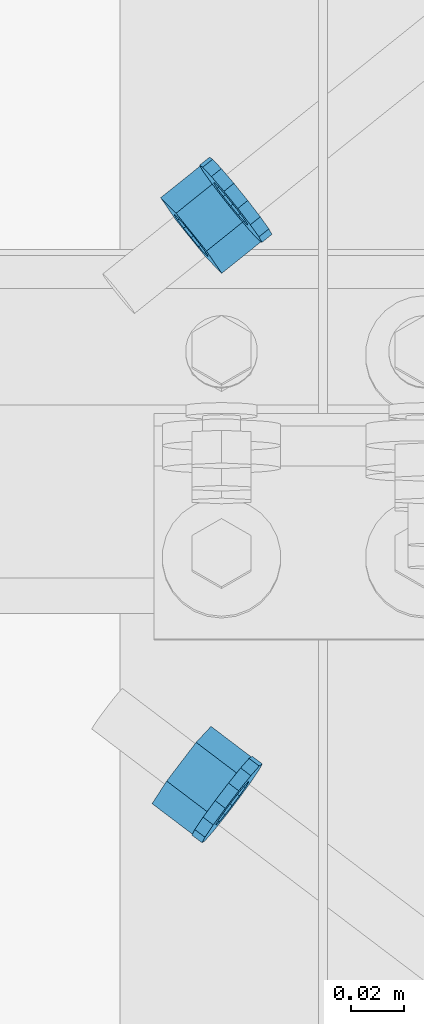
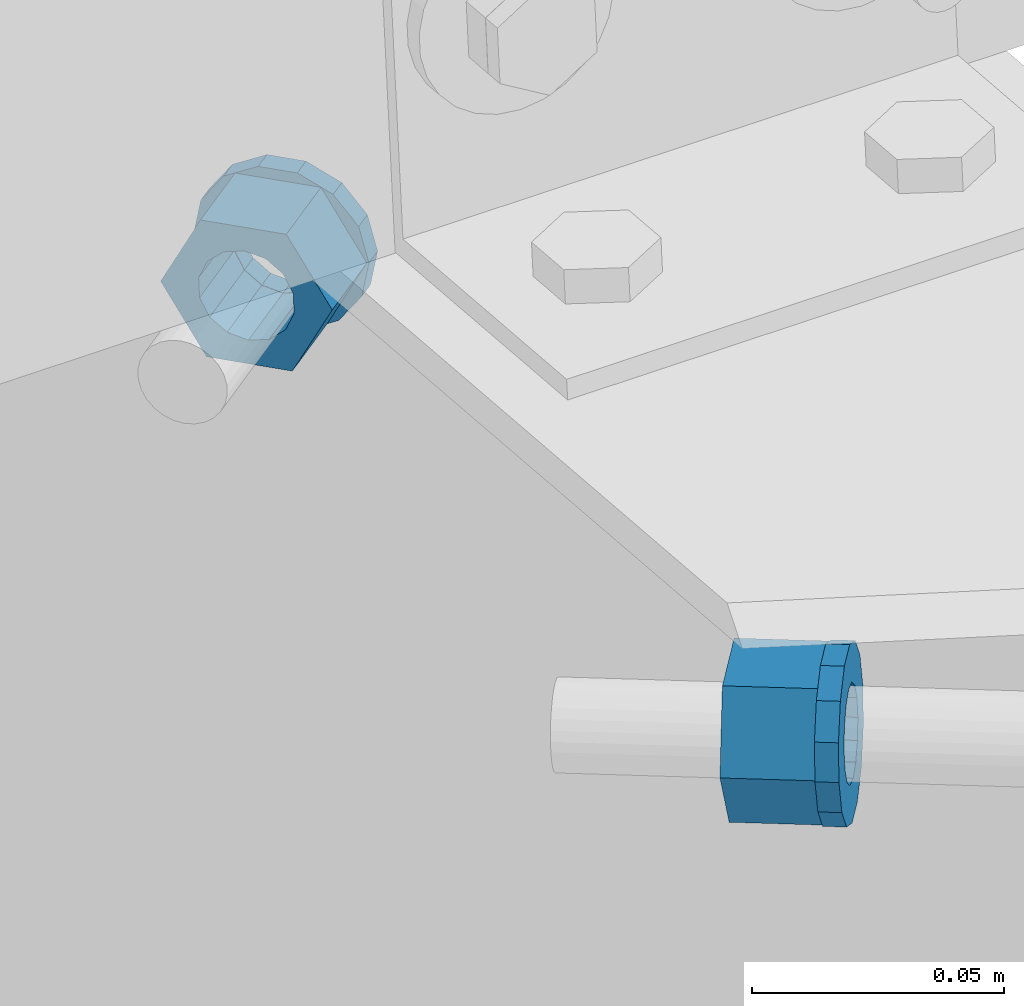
# One storey, part 36 of 185: 4 beams, 4 elements without a shape of their own.
"""IFC2X3 building model written with IfcOpenShell, lengths in millimetres."""

from ifc_helpers import new_model, si_unit, frame, origin_with_axes, place, context, subcontext, project, spatial, polyline, outline, extrude, material, type_object, element, aggregate, save


model = new_model("IFC2X3")

# Units and contexts
model_context = context("Model", 3, precision=1e-05, world=origin_with_axes())
body_context = subcontext(model_context, "Body", "Model", "MODEL_VIEW")
ifc_project = project(units=[si_unit("LENGTHUNIT", "METRE", prefix="MILLI"), si_unit("AREAUNIT", "SQUARE_METRE"), si_unit("VOLUMEUNIT", "CUBIC_METRE"), si_unit("MASSUNIT", "GRAM", prefix="KILO"), si_unit("TIMEUNIT", "SECOND"), si_unit("PLANEANGLEUNIT", "RADIAN"), si_unit("SOLIDANGLEUNIT", "STERADIAN"), si_unit("THERMODYNAMICTEMPERATUREUNIT", "DEGREE_CELSIUS"), si_unit("LUMINOUSINTENSITYUNIT", "LUMEN")], contexts=[model_context])

# Site, building, storey
site_placement = place(None, origin_with_axes())
site = spatial("IfcSite", under=ifc_project, at=site_placement, Name="Undefined", CompositionType="ELEMENT")
building_placement = place(site_placement, origin_with_axes())
building = spatial("IfcBuilding", under=site, at=building_placement, Name="Undefined", CompositionType="ELEMENT")
storey_placement = place(building_placement, origin_with_axes())
storey = spatial("IfcBuildingStorey", under=building, at=storey_placement, Name="Undefined", CompositionType="ELEMENT", Elevation=0.0)

# Assembly, beam
assembly_1_placement = place(storey_placement, origin_with_axes())
assembly_1 = element("IfcElementAssembly", 1, at=assembly_1_placement, inside=storey, Name="Steel Assembly", AssemblyPlace="NOTDEFINED", PredefinedType="RIGID_FRAME")
ifc_material = material(Name="STEEL/55")
beam_type_1 = type_object("IfcBeamType", Name="3/4_HEAVY_HEX_NUT", PredefinedType="NOTDEFINED")
beam_1_placement = place(assembly_1_placement, frame((7204.37722329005, 25495.1940412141, 6375.54233065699), z_axis=(0.00255536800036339, 0.0798819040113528, 0.996801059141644), x_axis=(-0.778915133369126, -0.624963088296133, 0.0520802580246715)))
beam_1 = element("IfcBeam", 2, at=beam_1_placement, type_object=beam_type_1, material=ifc_material, Name="3/4 H HEX NUT A563", ObjectType="3/4_HEAVY_HEX_NUT", context=body_context, shape_type="SweptSolid", body=[
    extrude(outline(polyline([(9.13000011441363, -15.810000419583), (-9.13000011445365, -15.810000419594), (-18.2600002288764, 1.54614099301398e-11), (-9.13000011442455, 15.8100004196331), (9.13000011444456, 15.8100004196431), (18.2600002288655, 3.36513039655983e-11), (9.13000011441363, -15.810000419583)]), holes=[polyline([(-8.06850066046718, 6.43441456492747), (-10.061255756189, 2.29641597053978), (-10.0612557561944, -2.29641597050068), (-8.06850066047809, -6.43441456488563), (-4.47768005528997, -9.29799844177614), (-1.09139364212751e-11, -10.3199996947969), (4.47768005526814, -9.29799844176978), (8.0685006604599, -6.43441456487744), (10.0612557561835, -2.29641597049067), (10.0612557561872, 2.2964159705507), (8.06850066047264, 6.43441456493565), (4.47768005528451, 9.29799844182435), (7.27595761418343e-12, 10.319999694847), (-4.47768005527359, 9.2979984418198), (-8.06850066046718, 6.43441456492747)])]), frame((19.0500000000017, 0.0, 2.58175642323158e-19), z_axis=(-1.0, 0.0, 0.0), x_axis=(0.0, -1.0, 0.0)), (0.0, 0.0, 1.0), 19.0),
])
aggregate(assembly_1, [beam_1])

assembly_2_placement = place(storey_placement, origin_with_axes())
assembly_2 = element("IfcElementAssembly", 3, at=assembly_2_placement, inside=storey, Name="Steel Assembly", AssemblyPlace="NOTDEFINED", PredefinedType="RIGID_FRAME")
beam_2_placement = place(assembly_2_placement, frame((7201.0827766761, 25273.2563147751, 6394.0371357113), z_axis=(0.00333120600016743, -0.0786761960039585, -0.996894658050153), x_axis=(-0.796162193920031, 0.60299316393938, -0.0502494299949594)))
beam_2 = element("IfcBeam", 4, at=beam_2_placement, type_object=beam_type_1, material=ifc_material, Name="3/4 H HEX NUT A563", ObjectType="3/4_HEAVY_HEX_NUT", context=body_context, shape_type="SweptSolid", body=[
    extrude(outline(polyline([(9.13000011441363, -15.810000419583), (-9.13000011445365, -15.810000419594), (-18.2600002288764, 1.54614099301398e-11), (-9.13000011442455, 15.8100004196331), (9.13000011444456, 15.8100004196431), (18.2600002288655, 3.36513039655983e-11), (9.13000011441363, -15.810000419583)]), holes=[polyline([(-8.06850066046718, 6.43441456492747), (-10.061255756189, 2.29641597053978), (-10.0612557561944, -2.29641597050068), (-8.06850066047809, -6.43441456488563), (-4.47768005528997, -9.29799844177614), (-1.09139364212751e-11, -10.3199996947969), (4.47768005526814, -9.29799844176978), (8.0685006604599, -6.43441456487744), (10.0612557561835, -2.29641597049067), (10.0612557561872, 2.2964159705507), (8.06850066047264, 6.43441456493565), (4.47768005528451, 9.29799844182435), (7.27595761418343e-12, 10.319999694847), (-4.47768005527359, 9.2979984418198), (-8.06850066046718, 6.43441456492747)])]), frame((19.0500000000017, 0.0, 2.58175642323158e-19), z_axis=(-1.0, 0.0, 0.0), x_axis=(0.0, -1.0, 0.0)), (0.0, 0.0, 1.0), 19.0),
])
aggregate(assembly_2, [beam_2])

assembly_3_placement = place(storey_placement, origin_with_axes())
assembly_3 = element("IfcElementAssembly", 5, at=assembly_3_placement, inside=storey, Name="Steel Assembly", AssemblyPlace="NOTDEFINED", PredefinedType="RIGID_FRAME")
beam_type_2 = type_object("IfcBeamType", Name="3/4_WASHER", PredefinedType="NOTDEFINED")
beam_3_placement = place(assembly_3_placement, frame((7208.08680661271, 25498.1704279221, 6375.29429842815), z_axis=(0.00255536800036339, 0.0798819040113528, 0.996801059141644), x_axis=(-0.778915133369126, -0.624963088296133, 0.0520802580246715)))
beam_3 = element("IfcBeam", 6, at=beam_3_placement, type_object=beam_type_2, material=ifc_material, Name="3/4 WASHER F844", ObjectType="3/4_WASHER", context=body_context, shape_type="SweptSolid", body=[
    extrude(outline(polyline([(-11.6280845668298, -14.5811568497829), (-16.8030690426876, -8.09193156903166), (-18.649999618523, -4.54747350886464e-12), (-16.8030690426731, 8.09193156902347), (-11.6280845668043, 14.5811568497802), (-4.15001533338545, 18.1824051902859), (4.15001533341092, 18.1824051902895), (11.628084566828, 14.5811568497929), (16.8030690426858, 8.09193156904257), (18.6499996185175, 1.45519152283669e-11), (16.8030690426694, -8.09193156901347), (11.6280845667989, -14.5811568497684), (4.15001533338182, -18.182405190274), (-4.15001533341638, -18.1824051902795), (-11.6280845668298, -14.5811568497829)]), holes=[polyline([(-8.06850066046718, 6.43441456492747), (-10.061255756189, 2.29641597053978), (-10.0612557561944, -2.29641597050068), (-8.06850066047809, -6.43441456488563), (-4.47768005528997, -9.29799844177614), (-1.09139364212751e-11, -10.3199996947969), (4.47768005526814, -9.29799844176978), (8.0685006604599, -6.43441456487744), (10.0612557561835, -2.29641597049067), (10.0612557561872, 2.2964159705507), (8.06850066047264, 6.43441456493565), (4.47768005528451, 9.29799844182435), (7.27595761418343e-12, 10.319999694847), (-4.47768005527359, 9.2979984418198), (-8.06850066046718, 6.43441456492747)])]), frame((4.76250000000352, 2.6437185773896e-16, 5.6843418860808e-14), z_axis=(-1.0, 0.0, 0.0), x_axis=(0.0, -1.0, 0.0)), (0.0, 0.0, 1.0), 4.8),
])
aggregate(assembly_3, [beam_3])

assembly_4_placement = place(storey_placement, origin_with_axes())
assembly_4 = element("IfcElementAssembly", 7, at=assembly_4_placement, inside=storey, Name="Steel Assembly", AssemblyPlace="NOTDEFINED", PredefinedType="RIGID_FRAME")
beam_4_placement = place(assembly_4_placement, frame((7204.87449912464, 25270.3845598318, 6394.27644862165), z_axis=(0.00333120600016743, -0.0786761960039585, -0.996894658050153), x_axis=(-0.796162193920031, 0.60299316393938, -0.0502494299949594)))
beam_4 = element("IfcBeam", 8, at=beam_4_placement, type_object=beam_type_2, material=ifc_material, Name="3/4 WASHER F844", ObjectType="3/4_WASHER", context=body_context, shape_type="SweptSolid", body=[
    extrude(outline(polyline([(-11.6280845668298, -14.5811568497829), (-16.8030690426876, -8.09193156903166), (-18.649999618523, -4.54747350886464e-12), (-16.8030690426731, 8.09193156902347), (-11.6280845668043, 14.5811568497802), (-4.15001533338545, 18.1824051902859), (4.15001533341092, 18.1824051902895), (11.628084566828, 14.5811568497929), (16.8030690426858, 8.09193156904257), (18.6499996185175, 1.45519152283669e-11), (16.8030690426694, -8.09193156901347), (11.6280845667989, -14.5811568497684), (4.15001533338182, -18.182405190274), (-4.15001533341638, -18.1824051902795), (-11.6280845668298, -14.5811568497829)]), holes=[polyline([(-8.06850066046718, 6.43441456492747), (-10.061255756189, 2.29641597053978), (-10.0612557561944, -2.29641597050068), (-8.06850066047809, -6.43441456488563), (-4.47768005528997, -9.29799844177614), (-1.09139364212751e-11, -10.3199996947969), (4.47768005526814, -9.29799844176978), (8.0685006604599, -6.43441456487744), (10.0612557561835, -2.29641597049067), (10.0612557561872, 2.2964159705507), (8.06850066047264, 6.43441456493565), (4.47768005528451, 9.29799844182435), (7.27595761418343e-12, 10.319999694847), (-4.47768005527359, 9.2979984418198), (-8.06850066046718, 6.43441456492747)])]), frame((4.76250000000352, 2.6437185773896e-16, 5.6843418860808e-14), z_axis=(-1.0, 0.0, 0.0), x_axis=(0.0, -1.0, 0.0)), (0.0, 0.0, 1.0), 4.8),
])
aggregate(assembly_4, [beam_4])

save(model, "model.ifc")
